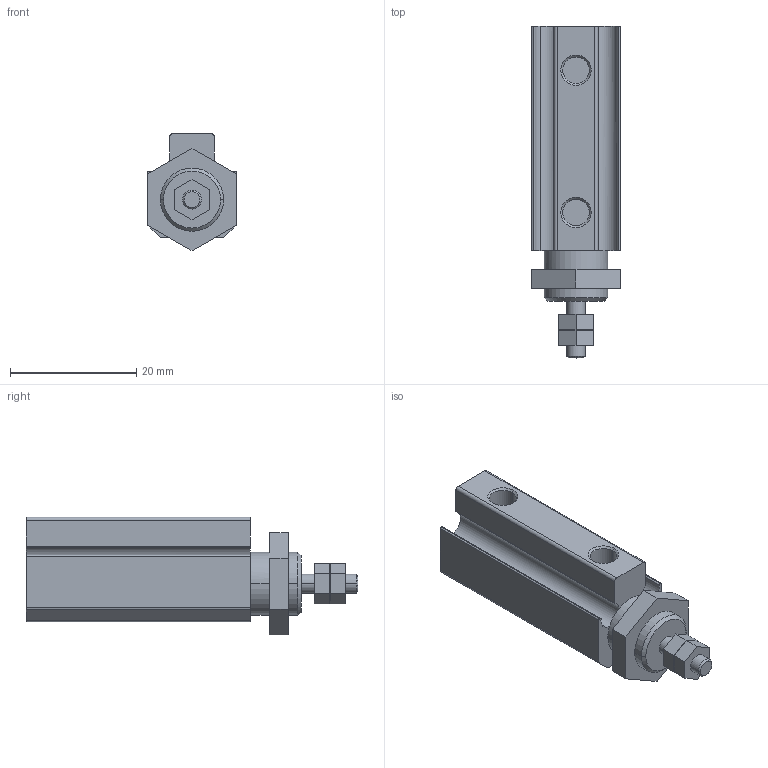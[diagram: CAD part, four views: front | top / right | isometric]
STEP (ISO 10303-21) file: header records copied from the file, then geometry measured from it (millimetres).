
FILE_DESCRIPTION((''),'2;1');
FILE_NAME('B:\CHANTO-3D-已完成\NEW\AAP\AAP-3D\AAP06X10.stp','2010-08-19T19:44:44',('Administrator'),(''),'Autodesk Inventor 8','Autodesk Inventor 8','');
FILE_SCHEMA(('AUTOMOTIVE_DESIGN { 1 0 10303 214 1 1 1 1 }'));
Length unit declared in the file: millimetre
Products named in the file (1): AAP06X10
Bounding box: 14 x 52.5 x 18.58 mm (x, y, z)
Volume: 6789.9 mm3; surface area: 3554.2 mm2
Topology: 1 solids, 1 shells, 81 faces, 198 edges, 128 vertices
Faces by surface type: plane 43, cylinder 30, cone 8
Entity records: 2415 total; most frequent: DIRECTION 438, CARTESIAN_POINT 408, ORIENTED_EDGE 396, EDGE_CURVE 198, AXIS2_PLACEMENT_3D 158, VERTEX_POINT 128, VECTOR 122, LINE 122
